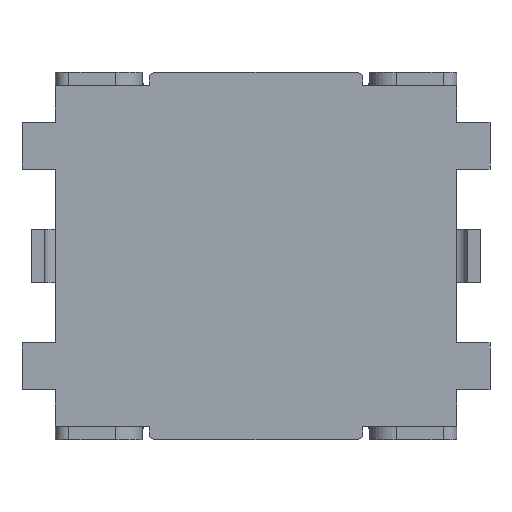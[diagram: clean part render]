
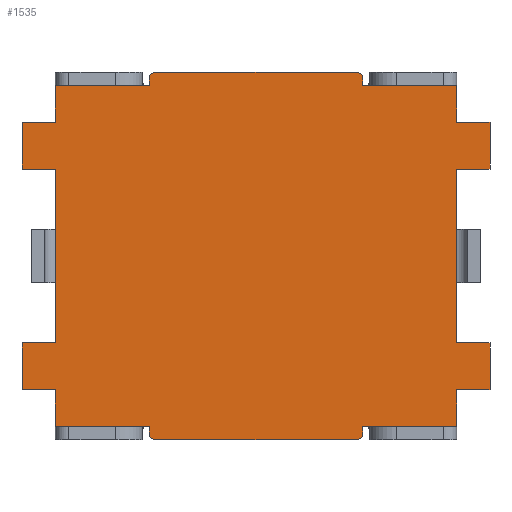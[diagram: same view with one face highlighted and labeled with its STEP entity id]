
A CAD part, front view. The second image highlights one B-rep face of the part: STEP entity #1535.
In plain terms, the highlighted planar face has unit normal (0, -1, 0).
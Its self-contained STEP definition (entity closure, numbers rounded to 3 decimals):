
#39=DIRECTION('',(0.,0.,-1.));
#40=VECTOR('',#39,0.275);
#41=CARTESIAN_POINT('',(1.5,0.,-1.));
#42=LINE('',#41,#40);
#46=DIRECTION('',(0.,0.,-1.));
#47=VECTOR('',#46,1.3);
#48=CARTESIAN_POINT('',(1.5,0.,0.65));
#49=LINE('',#48,#47);
#53=DIRECTION('',(0.,0.,-1.));
#54=VECTOR('',#53,0.275);
#55=CARTESIAN_POINT('',(1.5,0.,1.275));
#56=LINE('',#55,#54);
#155=DIRECTION('',(0.,0.,1.));
#156=VECTOR('',#155,0.275);
#157=CARTESIAN_POINT('',(-1.5,0.,1.));
#158=LINE('',#157,#156);
#162=DIRECTION('',(0.,0.,1.));
#163=VECTOR('',#162,1.3);
#164=CARTESIAN_POINT('',(-1.5,0.,-0.65));
#165=LINE('',#164,#163);
#169=DIRECTION('',(0.,0.,1.));
#170=VECTOR('',#169,0.275);
#171=CARTESIAN_POINT('',(-1.5,0.,-1.275));
#172=LINE('',#171,#170);
#239=DIRECTION('',(1.,0.,0.));
#240=VECTOR('',#239,0.7);
#241=CARTESIAN_POINT('',(-1.5,0.,1.275));
#242=LINE('',#241,#240);
#267=DIRECTION('',(1.,0.,0.));
#268=VECTOR('',#267,0.7);
#269=CARTESIAN_POINT('',(0.8,0.,1.275));
#270=LINE('',#269,#268);
#302=DIRECTION('',(0.,0.,1.));
#303=VECTOR('',#302,0.05);
#304=CARTESIAN_POINT('',(-0.8,0.,1.275));
#305=LINE('',#304,#303);
#323=DIRECTION('',(1.,0.,0.));
#324=VECTOR('',#323,1.5);
#325=CARTESIAN_POINT('',(-0.75,0.,1.375));
#326=LINE('',#325,#324);
#351=DIRECTION('',(0.,0.,-1.));
#352=VECTOR('',#351,0.05);
#353=CARTESIAN_POINT('',(0.8,0.,1.325));
#354=LINE('',#353,#352);
#358=CARTESIAN_POINT('',(0.75,0.,-1.325));
#359=DIRECTION('',(0.,-1.,0.));
#360=DIRECTION('',(0.,0.,-1.));
#361=AXIS2_PLACEMENT_3D('',#358,#359,#360);
#366=CARTESIAN_POINT('',(-0.75,0.,-1.325));
#367=DIRECTION('',(0.,-1.,0.));
#368=DIRECTION('',(-1.,0.,0.));
#369=AXIS2_PLACEMENT_3D('',#366,#367,#368);
#374=CARTESIAN_POINT('',(-0.75,0.,1.325));
#375=DIRECTION('',(0.,-1.,0.));
#376=DIRECTION('',(0.,0.,1.));
#377=AXIS2_PLACEMENT_3D('',#374,#375,#376);
#382=CARTESIAN_POINT('',(0.75,0.,1.325));
#383=DIRECTION('',(0.,-1.,0.));
#384=DIRECTION('',(1.,0.,0.));
#385=AXIS2_PLACEMENT_3D('',#382,#383,#384);
#390=DIRECTION('',(1.,0.,0.));
#391=VECTOR('',#390,0.25);
#392=CARTESIAN_POINT('',(1.5,0.,1.));
#393=LINE('',#392,#391);
#432=DIRECTION('',(-1.,0.,0.));
#433=VECTOR('',#432,0.25);
#434=CARTESIAN_POINT('',(1.75,0.,0.65));
#435=LINE('',#434,#433);
#446=DIRECTION('',(0.,0.,-1.));
#447=VECTOR('',#446,0.35);
#448=CARTESIAN_POINT('',(1.75,0.,1.));
#449=LINE('',#448,#447);
#467=DIRECTION('',(1.,0.,0.));
#468=VECTOR('',#467,0.25);
#469=CARTESIAN_POINT('',(1.5,0.,-0.65));
#470=LINE('',#469,#468);
#509=DIRECTION('',(-1.,0.,0.));
#510=VECTOR('',#509,0.25);
#511=CARTESIAN_POINT('',(1.75,0.,-1.));
#512=LINE('',#511,#510);
#523=DIRECTION('',(0.,0.,-1.));
#524=VECTOR('',#523,0.35);
#525=CARTESIAN_POINT('',(1.75,0.,-0.65));
#526=LINE('',#525,#524);
#572=DIRECTION('',(-1.,0.,0.));
#573=VECTOR('',#572,0.7);
#574=CARTESIAN_POINT('',(-0.8,0.,-1.275));
#575=LINE('',#574,#573);
#600=DIRECTION('',(-1.,0.,0.));
#601=VECTOR('',#600,0.7);
#602=CARTESIAN_POINT('',(1.5,0.,-1.275));
#603=LINE('',#602,#601);
#656=DIRECTION('',(0.,0.,1.));
#657=VECTOR('',#656,0.05);
#658=CARTESIAN_POINT('',(-0.8,0.,-1.325));
#659=LINE('',#658,#657);
#677=DIRECTION('',(-1.,0.,0.));
#678=VECTOR('',#677,1.5);
#679=CARTESIAN_POINT('',(0.75,0.,-1.375));
#680=LINE('',#679,#678);
#712=DIRECTION('',(0.,0.,-1.));
#713=VECTOR('',#712,0.05);
#714=CARTESIAN_POINT('',(0.8,0.,-1.275));
#715=LINE('',#714,#713);
#782=DIRECTION('',(-1.,0.,0.));
#783=VECTOR('',#782,0.25);
#784=CARTESIAN_POINT('',(-1.5,0.,-1.));
#785=LINE('',#784,#783);
#824=DIRECTION('',(1.,0.,0.));
#825=VECTOR('',#824,0.25);
#826=CARTESIAN_POINT('',(-1.75,0.,-0.65));
#827=LINE('',#826,#825);
#838=DIRECTION('',(0.,0.,1.));
#839=VECTOR('',#838,0.35);
#840=CARTESIAN_POINT('',(-1.75,0.,-1.));
#841=LINE('',#840,#839);
#859=DIRECTION('',(-1.,0.,0.));
#860=VECTOR('',#859,0.25);
#861=CARTESIAN_POINT('',(-1.5,0.,0.65));
#862=LINE('',#861,#860);
#901=DIRECTION('',(1.,0.,0.));
#902=VECTOR('',#901,0.25);
#903=CARTESIAN_POINT('',(-1.75,0.,1.));
#904=LINE('',#903,#902);
#915=DIRECTION('',(0.,0.,1.));
#916=VECTOR('',#915,0.35);
#917=CARTESIAN_POINT('',(-1.75,0.,0.65));
#918=LINE('',#917,#916);
#1017=CARTESIAN_POINT('',(-0.8,0.,-1.325));
#1019=VERTEX_POINT('',#1017);
#1027=CARTESIAN_POINT('',(0.75,0.,-1.375));
#1029=VERTEX_POINT('',#1027);
#1032=CARTESIAN_POINT('',(-0.75,0.,-1.375));
#1034=VERTEX_POINT('',#1032);
#1049=CARTESIAN_POINT('',(0.8,0.,-1.325));
#1050=VERTEX_POINT('',#1049);
#1081=CARTESIAN_POINT('',(-0.75,0.,1.375));
#1082=VERTEX_POINT('',#1081);
#1084=CARTESIAN_POINT('',(0.75,0.,1.375));
#1086=VERTEX_POINT('',#1084);
#1097=CARTESIAN_POINT('',(0.8,0.,1.275));
#1099=VERTEX_POINT('',#1097);
#1105=CARTESIAN_POINT('',(0.8,0.,1.325));
#1107=VERTEX_POINT('',#1105);
#1109=CARTESIAN_POINT('',(-0.8,0.,1.325));
#1110=VERTEX_POINT('',#1109);
#1111=CARTESIAN_POINT('',(-0.8,0.,1.275));
#1112=VERTEX_POINT('',#1111);
#1121=CARTESIAN_POINT('',(0.8,0.,-1.275));
#1122=VERTEX_POINT('',#1121);
#1123=CARTESIAN_POINT('',(-0.8,0.,-1.275));
#1124=VERTEX_POINT('',#1123);
#1125=CARTESIAN_POINT('',(1.5,0.,1.275));
#1126=VERTEX_POINT('',#1125);
#1127=CARTESIAN_POINT('',(1.5,0.,-1.275));
#1128=VERTEX_POINT('',#1127);
#1129=CARTESIAN_POINT('',(-1.5,0.,1.275));
#1130=VERTEX_POINT('',#1129);
#1131=CARTESIAN_POINT('',(-1.5,0.,-1.275));
#1132=VERTEX_POINT('',#1131);
#1133=CARTESIAN_POINT('',(1.75,0.,-1.));
#1135=VERTEX_POINT('',#1133);
#1138=CARTESIAN_POINT('',(1.75,0.,1.));
#1140=VERTEX_POINT('',#1138);
#1143=CARTESIAN_POINT('',(1.75,0.,-0.65));
#1144=VERTEX_POINT('',#1143);
#1149=CARTESIAN_POINT('',(-1.75,0.,-1.));
#1150=CARTESIAN_POINT('',(-1.75,0.,-0.65));
#1151=VERTEX_POINT('',#1149);
#1152=VERTEX_POINT('',#1150);
#1153=CARTESIAN_POINT('',(-1.75,0.,1.));
#1154=VERTEX_POINT('',#1153);
#1155=CARTESIAN_POINT('',(-1.75,0.,0.65));
#1156=VERTEX_POINT('',#1155);
#1157=CARTESIAN_POINT('',(1.75,0.,0.65));
#1159=VERTEX_POINT('',#1157);
#1167=CARTESIAN_POINT('',(1.5,0.,1.));
#1168=VERTEX_POINT('',#1167);
#1171=CARTESIAN_POINT('',(1.5,0.,0.65));
#1172=VERTEX_POINT('',#1171);
#1174=CARTESIAN_POINT('',(1.5,0.,-0.65));
#1176=VERTEX_POINT('',#1174);
#1179=CARTESIAN_POINT('',(1.5,0.,-1.));
#1180=VERTEX_POINT('',#1179);
#1182=CARTESIAN_POINT('',(-1.5,0.,0.65));
#1184=VERTEX_POINT('',#1182);
#1187=CARTESIAN_POINT('',(-1.5,0.,-0.65));
#1188=VERTEX_POINT('',#1187);
#1189=CARTESIAN_POINT('',(-1.5,0.,-1.));
#1190=VERTEX_POINT('',#1189);
#1191=CARTESIAN_POINT('',(-1.5,0.,1.));
#1192=VERTEX_POINT('',#1191);
#1477=CARTESIAN_POINT('',(0.,0.,0.));
#1478=DIRECTION('',(0.,1.,0.));
#1479=DIRECTION('',(1.,0.,0.));
#1480=AXIS2_PLACEMENT_3D('',#1477,#1478,#1479);
#1481=PLANE('',#1480);
#1482=ORIENTED_EDGE('',*,*,#1228,.T.);
#1484=ORIENTED_EDGE('',*,*,#1483,.T.);
#1486=ORIENTED_EDGE('',*,*,#1485,.T.);
#1488=ORIENTED_EDGE('',*,*,#1487,.T.);
#1489=ORIENTED_EDGE('',*,*,#1220,.T.);
#1491=ORIENTED_EDGE('',*,*,#1490,.T.);
#1493=ORIENTED_EDGE('',*,*,#1492,.T.);
#1495=ORIENTED_EDGE('',*,*,#1494,.T.);
#1496=ORIENTED_EDGE('',*,*,#1212,.T.);
#1498=ORIENTED_EDGE('',*,*,#1497,.T.);
#1500=ORIENTED_EDGE('',*,*,#1499,.T.);
#1502=ORIENTED_EDGE('',*,*,#1501,.F.);
#1504=ORIENTED_EDGE('',*,*,#1503,.T.);
#1506=ORIENTED_EDGE('',*,*,#1505,.F.);
#1508=ORIENTED_EDGE('',*,*,#1507,.T.);
#1510=ORIENTED_EDGE('',*,*,#1509,.T.);
#1511=ORIENTED_EDGE('',*,*,#1318,.T.);
#1513=ORIENTED_EDGE('',*,*,#1512,.T.);
#1515=ORIENTED_EDGE('',*,*,#1514,.T.);
#1517=ORIENTED_EDGE('',*,*,#1516,.T.);
#1518=ORIENTED_EDGE('',*,*,#1310,.T.);
#1520=ORIENTED_EDGE('',*,*,#1519,.T.);
#1522=ORIENTED_EDGE('',*,*,#1521,.T.);
#1524=ORIENTED_EDGE('',*,*,#1523,.T.);
#1525=ORIENTED_EDGE('',*,*,#1302,.T.);
#1526=ORIENTED_EDGE('',*,*,#1381,.T.);
#1527=ORIENTED_EDGE('',*,*,#1417,.T.);
#1528=ORIENTED_EDGE('',*,*,#1431,.F.);
#1529=ORIENTED_EDGE('',*,*,#1444,.T.);
#1530=ORIENTED_EDGE('',*,*,#1459,.F.);
#1531=ORIENTED_EDGE('',*,*,#1472,.T.);
#1532=ORIENTED_EDGE('',*,*,#1396,.T.);
#1533=EDGE_LOOP('',(#1482,#1484,#1486,#1488,#1489,#1491,#1493,#1495,#1496,#1498,
#1500,#1502,#1504,#1506,#1508,#1510,#1511,#1513,#1515,#1517,#1518,#1520,#1522,
#1524,#1525,#1526,#1527,#1528,#1529,#1530,#1531,#1532));
#1534=FACE_OUTER_BOUND('',#1533,.F.);
#362=CIRCLE('',#361,0.05);
#370=CIRCLE('',#369,0.05);
#378=CIRCLE('',#377,0.05);
#386=CIRCLE('',#385,0.05);
#1212=EDGE_CURVE('',#1180,#1128,#42,.T.);
#1220=EDGE_CURVE('',#1172,#1176,#49,.T.);
#1228=EDGE_CURVE('',#1126,#1168,#56,.T.);
#1302=EDGE_CURVE('',#1192,#1130,#158,.T.);
#1310=EDGE_CURVE('',#1188,#1184,#165,.T.);
#1318=EDGE_CURVE('',#1132,#1190,#172,.T.);
#1381=EDGE_CURVE('',#1130,#1112,#242,.T.);
#1396=EDGE_CURVE('',#1099,#1126,#270,.T.);
#1417=EDGE_CURVE('',#1112,#1110,#305,.T.);
#1431=EDGE_CURVE('',#1082,#1110,#378,.T.);
#1444=EDGE_CURVE('',#1082,#1086,#326,.T.);
#1459=EDGE_CURVE('',#1107,#1086,#386,.T.);
#1472=EDGE_CURVE('',#1107,#1099,#354,.T.);
#1483=EDGE_CURVE('',#1168,#1140,#393,.T.);
#1485=EDGE_CURVE('',#1140,#1159,#449,.T.);
#1487=EDGE_CURVE('',#1159,#1172,#435,.T.);
#1490=EDGE_CURVE('',#1176,#1144,#470,.T.);
#1492=EDGE_CURVE('',#1144,#1135,#526,.T.);
#1494=EDGE_CURVE('',#1135,#1180,#512,.T.);
#1497=EDGE_CURVE('',#1128,#1122,#603,.T.);
#1499=EDGE_CURVE('',#1122,#1050,#715,.T.);
#1501=EDGE_CURVE('',#1029,#1050,#362,.T.);
#1503=EDGE_CURVE('',#1029,#1034,#680,.T.);
#1505=EDGE_CURVE('',#1019,#1034,#370,.T.);
#1507=EDGE_CURVE('',#1019,#1124,#659,.T.);
#1509=EDGE_CURVE('',#1124,#1132,#575,.T.);
#1512=EDGE_CURVE('',#1190,#1151,#785,.T.);
#1514=EDGE_CURVE('',#1151,#1152,#841,.T.);
#1516=EDGE_CURVE('',#1152,#1188,#827,.T.);
#1519=EDGE_CURVE('',#1184,#1156,#862,.T.);
#1521=EDGE_CURVE('',#1156,#1154,#918,.T.);
#1523=EDGE_CURVE('',#1154,#1192,#904,.T.);
#1535=ADVANCED_FACE('',(#1534),#1481,.F.);
